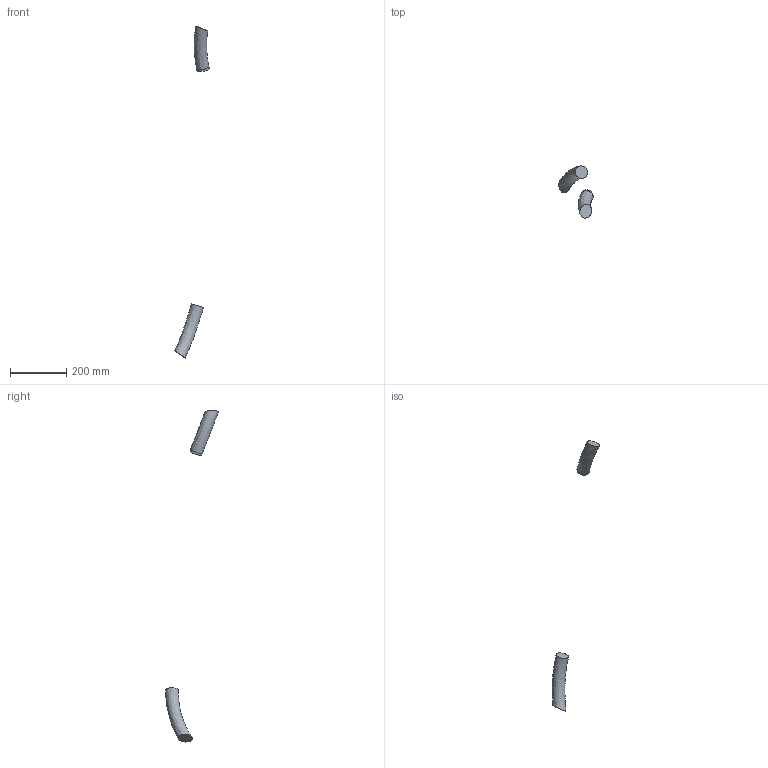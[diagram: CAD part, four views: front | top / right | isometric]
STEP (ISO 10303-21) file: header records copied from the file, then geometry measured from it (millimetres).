
FILE_DESCRIPTION (( 'STEP AP203' ), '1' );
FILE_NAME ('IRB6730S-ALL-OC_00_LINK02m_CABLE.step', '2025-12-19T13:30:22', ( '' ), ( '' ), 'SwSTEP 2.0', 'SolidWorks 2024', '' );
FILE_SCHEMA (( 'CONFIG_CONTROL_DESIGN' ));
Length unit declared in the file: millimetre
Products named in the file (1): IRB6730S-ALL-OC_00_LINK02m_CABLE
Bounding box: 122.97 x 187.55 x 1182.33 mm (x, y, z)
Volume: 553951.5 mm3; surface area: 56021.1 mm2
Topology: 2 solids, 2 shells, 7 faces, 8 edges, 5 vertices
Faces by surface type: plane 4, bspline 2, cylinder 1
Full cylindrical faces by diameter (mm): 45 x1
Entity records: 1169 total; most frequent: CARTESIAN_POINT 1002, DIRECTION 18, EDGE_LOOP 10, ORIENTED_EDGE 10, FACE_OUTER_BOUND 10, AXIS2_PLACEMENT_3D 9, PERSON_AND_ORGANIZATION 8, ADVANCED_FACE 7
